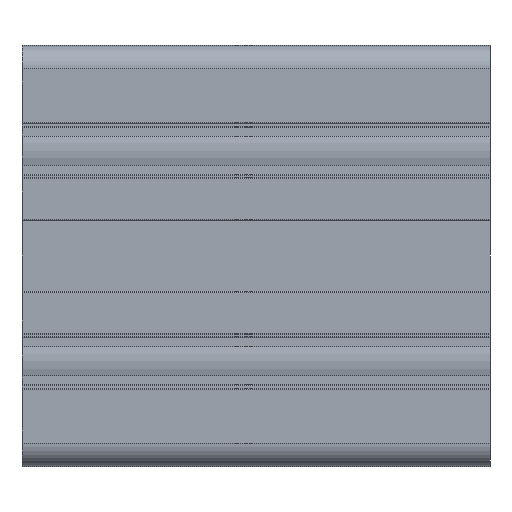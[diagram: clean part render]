
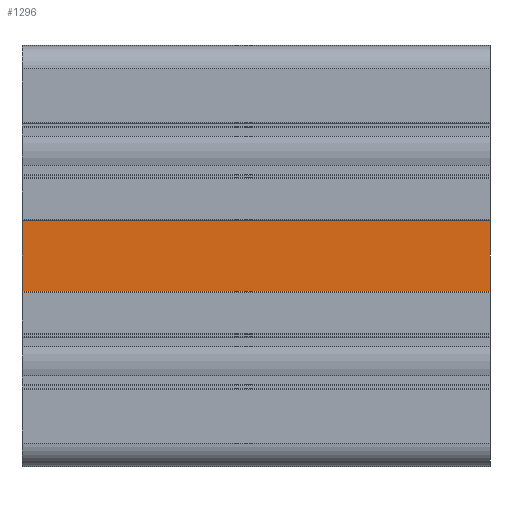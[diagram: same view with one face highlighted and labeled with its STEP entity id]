
A CAD part, left-side view. The second image highlights one B-rep face of the part: STEP entity #1296.
In plain terms, the highlighted planar face has unit normal (-1, 0, 0).
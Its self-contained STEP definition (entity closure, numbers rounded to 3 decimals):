
#1296 = ADVANCED_FACE( '', ( #2869 ), #2870, .F. );
#2869 = FACE_OUTER_BOUND( '', #4716, .T. );
#2870 = PLANE( '', #4717 );
#4716 = EDGE_LOOP( '', ( #8811, #8812, #8813, #8814 ) );
#4717 = AXIS2_PLACEMENT_3D( '', #8815, #8816, #8817 );
#8811 = ORIENTED_EDGE( '', *, *, #12332, .T. );
#8812 = ORIENTED_EDGE( '', *, *, #13338, .F. );
#8813 = ORIENTED_EDGE( '', *, *, #13339, .F. );
#8814 = ORIENTED_EDGE( '', *, *, #13340, .T. );
#8815 = CARTESIAN_POINT( '', ( -44., 100., -7.5 ) );
#8816 = DIRECTION( '', ( 1., 0., 0. ) );
#8817 = DIRECTION( '', ( 0., 0., -1. ) );
#12332 = EDGE_CURVE( '', #15303, #15301, #15304, .T. );
#13338 = EDGE_CURVE( '', #16834, #15301, #16835, .T. );
#13339 = EDGE_CURVE( '', #16836, #16834, #16837, .T. );
#13340 = EDGE_CURVE( '', #16836, #15303, #16838, .T. );
#15301 = VERTEX_POINT( '', #19312 );
#15303 = VERTEX_POINT( '', #19315 );
#15304 = LINE( '', #19316, #19317 );
#16834 = VERTEX_POINT( '', #21335 );
#16835 = LINE( '', #21336, #21337 );
#16836 = VERTEX_POINT( '', #21338 );
#16837 = LINE( '', #21339, #21340 );
#16838 = LINE( '', #21341, #21342 );
#19312 = CARTESIAN_POINT( '', ( -44., 0., 7.5 ) );
#19315 = CARTESIAN_POINT( '', ( -44., 0., -7.5 ) );
#19316 = CARTESIAN_POINT( '', ( -44., 0., -7.5 ) );
#19317 = VECTOR( '', #23474, 1000. );
#21335 = CARTESIAN_POINT( '', ( -44., 100., 7.5 ) );
#21336 = CARTESIAN_POINT( '', ( -44., 100., 7.5 ) );
#21337 = VECTOR( '', #24872, 1000. );
#21338 = CARTESIAN_POINT( '', ( -44., 100., -7.5 ) );
#21339 = CARTESIAN_POINT( '', ( -44., 100., -7.5 ) );
#21340 = VECTOR( '', #24873, 1000. );
#21341 = CARTESIAN_POINT( '', ( -44., 100., -7.5 ) );
#21342 = VECTOR( '', #24874, 1000. );
#23474 = DIRECTION( '', ( 0., 0., 1. ) );
#24872 = DIRECTION( '', ( 0., -1., 0. ) );
#24873 = DIRECTION( '', ( 0., 0., 1. ) );
#24874 = DIRECTION( '', ( 0., -1., 0. ) );
